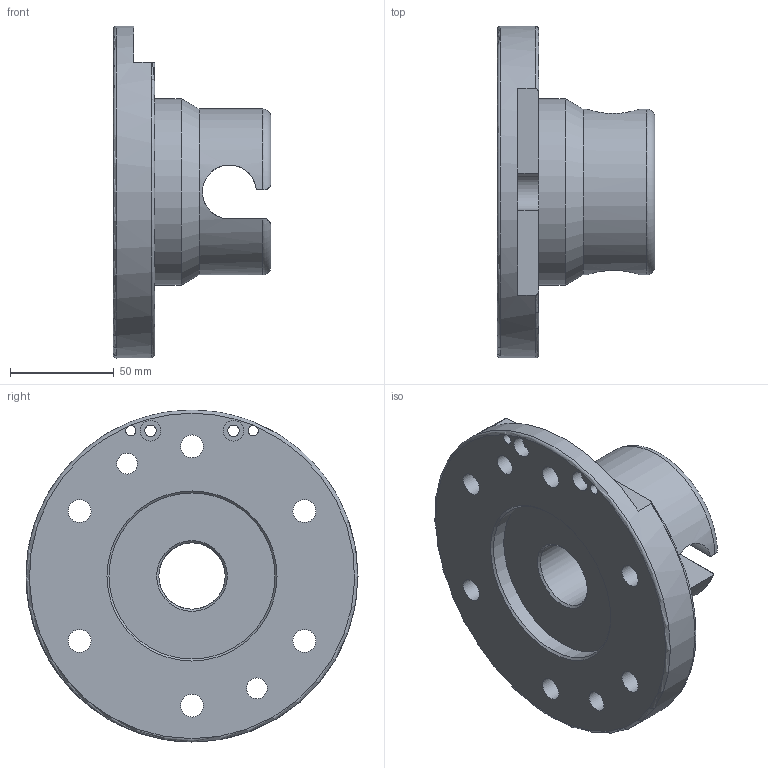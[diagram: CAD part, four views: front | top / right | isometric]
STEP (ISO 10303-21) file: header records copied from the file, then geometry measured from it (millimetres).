
FILE_DESCRIPTION(/* description */ (''),/* implementation_level */ '2;1');
FILE_NAME(/* name */ '\\dc01\daten\CAD\Standard\Daten\3D-Datenbank\Webseite 2020\SWS\160\G-SWS160-2UEN-B02.stp',/* time_stamp */ '2020-05-05T14:38:30+02:00',/* author */ ('ysplieth'),/* organization */ (''),/* preprocessor_version */ 'ST-DEVELOPER v17',/* originating_system */ 'Autodesk Inventor 2018',/* authorisation */ '');
FILE_SCHEMA (('AUTOMOTIVE_DESIGN { 1 0 10303 214 3 1 1 }'));
Length unit declared in the file: millimetre
Products named in the file (1): Bauteil4
Bounding box: 76 x 160 x 160 mm (x, y, z)
Volume: 539096 mm3; surface area: 76296.3 mm2
Topology: 1 solids, 1 shells, 60 faces, 176 edges, 124 vertices
Faces by surface type: cylinder 27, plane 24, cone 5, torus 4
Full cylindrical faces by diameter (mm): 5 x2, 5.5 x2, 10 x4, 11 x6, 18 x6, 32 x1, 80 x2, 90 x1, 160 x1
Entity records: 2434 total; most frequent: CARTESIAN_POINT 607, DIRECTION 374, ORIENTED_EDGE 352, EDGE_CURVE 176, AXIS2_PLACEMENT_3D 159, VERTEX_POINT 124, CIRCLE 94, EDGE_LOOP 92
